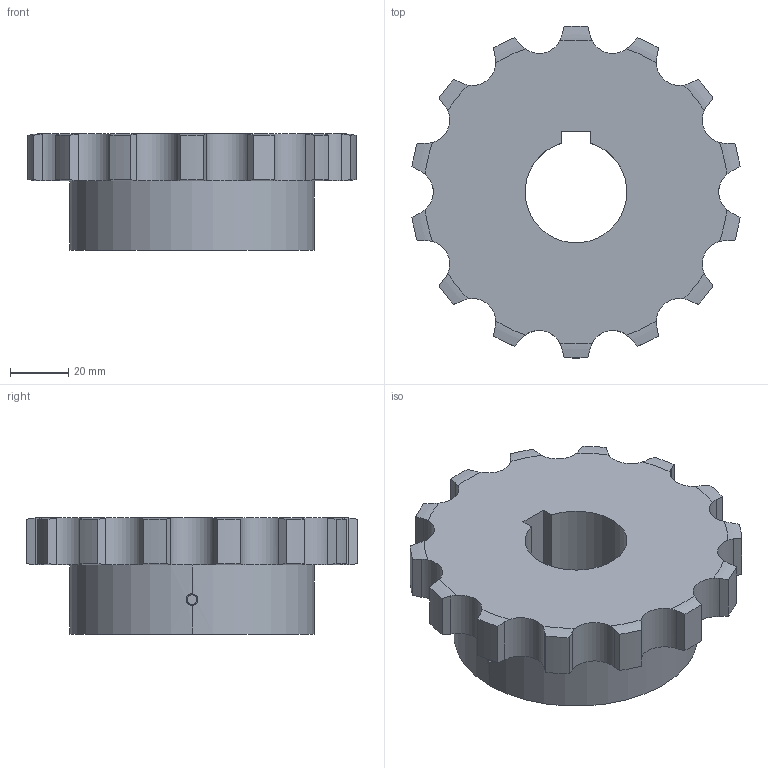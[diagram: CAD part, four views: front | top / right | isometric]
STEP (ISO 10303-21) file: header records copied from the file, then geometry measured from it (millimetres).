
FILE_DESCRIPTION((''),'2;1');
FILE_NAME('510-501-3514_PRT','2021-02-13T',('Brieden'),('Brieden'),'PRO/ENGINEER BY PARAMETRIC TECHNOLOGY CORPORATION, 2010160','PRO/ENGINEER BY PARAMETRIC TECHNOLOGY CORPORATION, 2010160','');
FILE_SCHEMA(('AUTOMOTIVE_DESIGN { 1 0 10303 214 1 1 1 1 }'));
Length unit declared in the file: millimetre
Products named in the file (1): 510-501-3514_PRT
Bounding box: 112.81 x 114.12 x 40 mm (x, y, z)
Volume: 234807.3 mm3; surface area: 34187.2 mm2
Topology: 1 solids, 1 shells, 105 faces, 297 edges, 196 vertices
Faces by surface type: cylinder 63, torus 28, plane 8, bspline 6
Entity records: 5120 total; most frequent: CARTESIAN_POINT 1605, ORIENTED_EDGE 594, DIRECTION 465, PRESENTATION_STYLE_ASSIGNMENT 298, STYLED_ITEM 298, CURVE_STYLE 297, EDGE_CURVE 297, VERTEX_POINT 196
